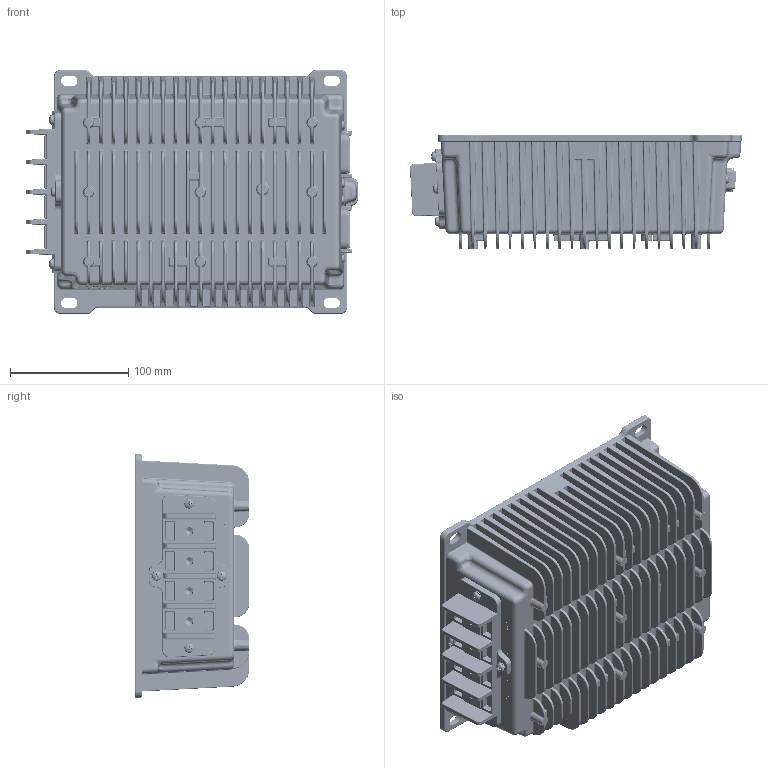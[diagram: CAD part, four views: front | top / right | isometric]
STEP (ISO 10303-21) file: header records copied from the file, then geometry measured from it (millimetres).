
FILE_DESCRIPTION(/* description */ (''),/* implementation_level */ '2;1');
FILE_NAME(/* name */ 'S:\Projects\BI-150A-DC-MC, AX105000, Proj_17007\MECHANICAL\rev 1\AX105000.stp',/* time_stamp */ '2020-03-26T16:21:34-04:00',/* author */ ('tfisher'),/* organization */ (''),/* preprocessor_version */ 'ST-DEVELOPER v15.2',/* originating_system */ 'Autodesk Inventor 2014',/* authorisation */ '');
FILE_SCHEMA (('AUTOMOTIVE_DESIGN { 1 0 10303 214 3 1 1 }'));
Products named in the file (1): FG-AX105000 for STEP_Shrinkwrap_1
Bounding box: 280.91 x 96.85 x 206.52 mm (x, y, z)
Volume: 1181439.8 mm3; surface area: 511700.1 mm2
Topology: 5 solids, 35 shells, 7548 faces, 18714 edges, 11562 vertices
Faces by surface type: plane 3150, cylinder 1993, bspline 1679, torus 302, cone 260, sphere 164
Full cylindrical faces by diameter (mm): 1.003 x96, 3.175 x12, 3.251 x12, 3.505 x4, 3.683 x4, 4 x4, 4.3 x4, 4.928 x8, 6 x10, 6.604 x12, 6.647 x4, 6.655 x8, 8 x12, 8.103 x4, 8.128 x4, 8.4 x4, 9 x4, 10.9 x8, 13 x4, 16 x4
Entity records: 287041 total; most frequent: CARTESIAN_POINT 111014, ORIENTED_EDGE 36364, DIRECTION 32865, EDGE_CURVE 18182, AXIS2_PLACEMENT_3D 11439, VERTEX_POINT 11432, LINE 9987, VECTOR 9987
